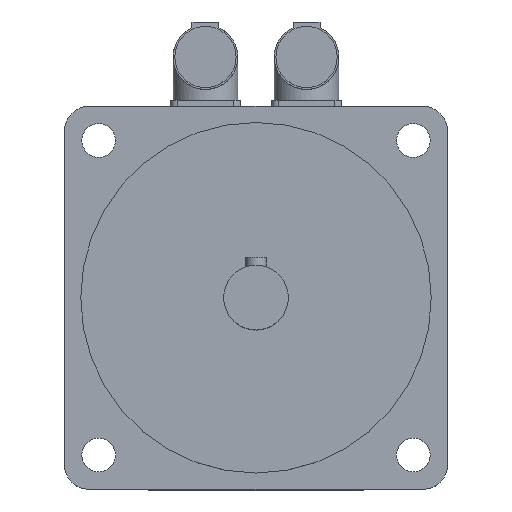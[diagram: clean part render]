
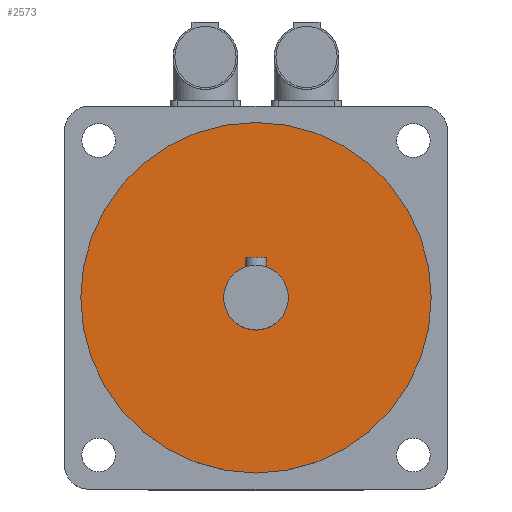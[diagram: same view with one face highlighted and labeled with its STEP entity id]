
A CAD part, top view. The second image highlights one B-rep face of the part: STEP entity #2573.
In plain terms, the highlighted planar face has unit normal (0, 0, 1).
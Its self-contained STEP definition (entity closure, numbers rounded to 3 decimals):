
#40=FACE_BOUND('',#443,.T.);
#68=CIRCLE('',#2730,12.);
#69=CIRCLE('',#2733,65.);
#285=FACE_OUTER_BOUND('',#442,.T.);
#442=EDGE_LOOP('',(#1750));
#443=EDGE_LOOP('',(#1751));
#1090=VERTEX_POINT('',#3908);
#1091=VERTEX_POINT('',#3912);
#1348=EDGE_CURVE('',#1090,#1090,#68,.T.);
#1349=EDGE_CURVE('',#1091,#1091,#69,.T.);
#1750=ORIENTED_EDGE('',*,*,#1349,.T.);
#1751=ORIENTED_EDGE('',*,*,#1348,.T.);
#2497=PLANE('',#2735);
#2573=ADVANCED_FACE('',(#285,#40),#2497,.F.);
#2730=AXIS2_PLACEMENT_3D('',#3909,#3045,#3046);
#2733=AXIS2_PLACEMENT_3D('',#3913,#3051,#3052);
#2735=AXIS2_PLACEMENT_3D('',#3916,#3055,#3056);
#3045=DIRECTION('center_axis',(0.,0.,
-1.));
#3046=DIRECTION('ref_axis',(-1.,0.,0.));
#3051=DIRECTION('center_axis',(0.,0.,
1.));
#3052=DIRECTION('ref_axis',(-1.,0.,0.));
#3055=DIRECTION('center_axis',(0.,0.,
-1.));
#3056=DIRECTION('ref_axis',(-1.,0.,0.));
#3908=CARTESIAN_POINT('',(12.,0.,151.5));
#3909=CARTESIAN_POINT('Origin',(0.,0.,
151.5));
#3912=CARTESIAN_POINT('',(65.,0.,151.5));
#3913=CARTESIAN_POINT('Origin',(0.,0.,
151.5));
#3916=CARTESIAN_POINT('Origin',(0.,0.,
151.5));
